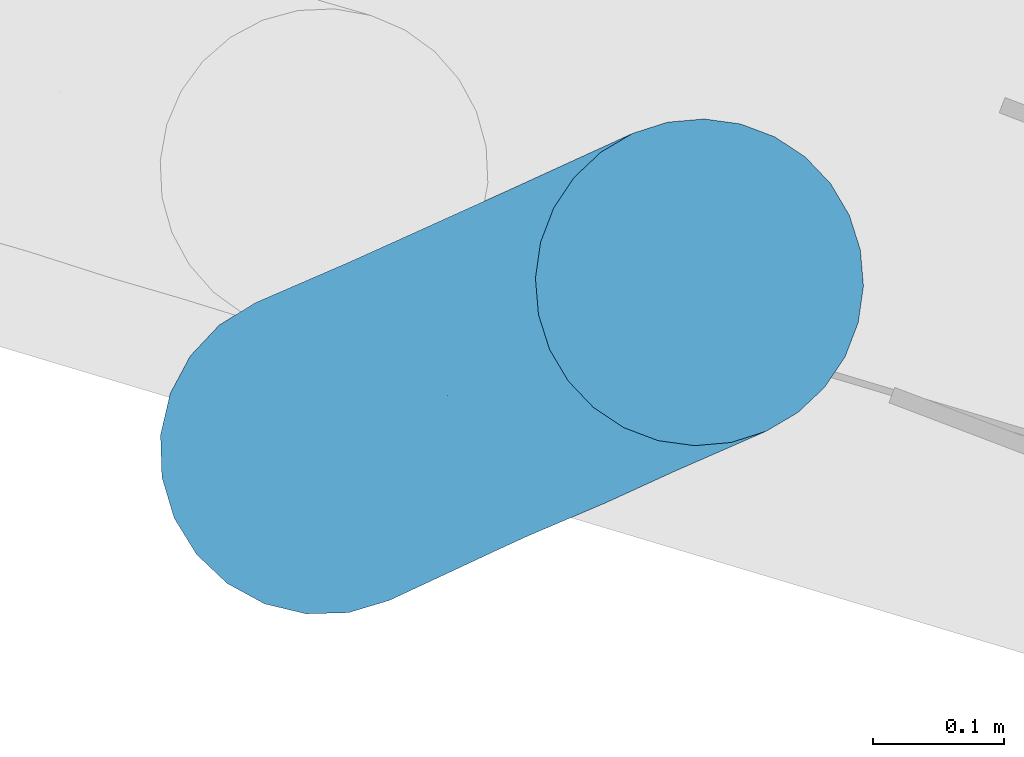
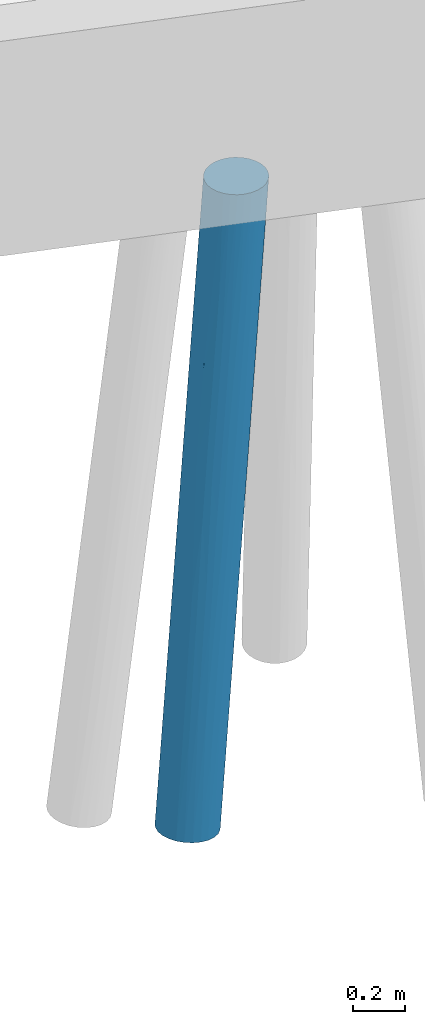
# One storey, part 4 of 46: 1 pile.
"""IFC2X3 building model written with IfcOpenShell, lengths in millimetres."""

from ifc_helpers import new_model, entity, si_unit, converted_unit, derived_unit, direction, frame, origin, place, context, subcontext, project, spatial, faceted_brep, source, transform, mapped, material, type_object, type_shapes, element, save


model = new_model("IFC2X3")

# Units and contexts
model_context = context("Model", 3, precision=0.01, world=origin(), true_north=direction((6.123233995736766e-17, 1.0)))
body_context = subcontext(model_context, "Body", "Model", "MODEL_VIEW")
ifc_project = project(units=[si_unit("LENGTHUNIT", "METRE", prefix="MILLI"), converted_unit("PLANEANGLEUNIT", "DEGREE", entity("IfcPlaneAngleMeasure", 0.017453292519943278), si_unit("PLANEANGLEUNIT", "RADIAN"), dimensions=[0, 0, 0, 0, 0, 0, 0]), si_unit("AREAUNIT", "SQUARE_METRE"), derived_unit("THERMALTRANSMITTANCEUNIT", [(si_unit("MASSUNIT", "GRAM", prefix="KILO"), 1), (si_unit("THERMODYNAMICTEMPERATUREUNIT", "KELVIN"), -1), (si_unit("TIMEUNIT", "SECOND"), -3)])], contexts=[model_context])

# Site, building, storey
site_placement = place(None, frame((-72937.88054949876, 11621.45624098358, 0.0), z_axis=(0.0, 0.0, 1.0), x_axis=(0.9346418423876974, -0.35559053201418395, 0.0)))
site = spatial("IfcSite", under=ifc_project, at=site_placement, Name="Default", CompositionType="ELEMENT")
building_placement = place(site_placement, origin())
building = spatial("IfcBuilding", under=site, at=building_placement, CompositionType="ELEMENT")
storey_placement = place(building_placement, origin())
storey = spatial("IfcBuildingStorey", under=building, at=storey_placement, Name="00 begane grond", CompositionType="ELEMENT", Elevation=0.0)

# Pile
ifc_material = material(Name="beton_gewapend_prefab-element_c45/55")
type_product = type_object("IfcTypeProduct", Name="Type 01", material=ifc_material)
shared_shape = source(origin(), body_context, "Body", "Brep", [
    faceted_brep([(124.838162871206, -27.815116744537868, -1150.0), (115.53639022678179, -54.2354673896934, -1150.0), (72.36643070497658, -41.239861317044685, -1587.2480771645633), (-111.09194578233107, -54.23546738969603, -1150.0), (-165.1894529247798, -41.33003827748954, -1588.444859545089), (-182.07875772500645, -65.1457063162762, -1842.6627389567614), (-30.14575159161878, -64.60051474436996, -2410.3553271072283), (32.98344934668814, -64.94314047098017, -1840.3127773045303), (15.031797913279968, -88.27496307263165, -1836.1297740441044), (41.77006032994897, 0.0, -1925.9925992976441), (100.55257203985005, -77.9362252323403, -1150.0), (80.6380595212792, -97.7289353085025, -1150.0), (-180.54618184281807, -99.16916754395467, -3483.986786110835), (-108.1734310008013, -106.74566752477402, -2732.5343267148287), (-175.6519081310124, -115.48494156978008, -3184.0354063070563), (-42.91884640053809, -117.90464735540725, -1932.203812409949), (56.79144948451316, -112.62110848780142, -1150.0), (30.20851053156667, -121.8659890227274, -1150.0), (-120.39371842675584, -27.81511674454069, -1150.0), (-242.98263969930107, -88.62069146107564, -2558.5627355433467), (-162.25875578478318, -88.50075404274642, -1830.9574517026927), (-245.70385641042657, -64.88368548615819, -2413.843724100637), (-194.4421984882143, -32.35238063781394, -4013.333582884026), (-133.56769714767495, -28.49629953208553, -3474.2266886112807), (-151.93048965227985, -53.33845094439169, -3561.073967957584), (12.222467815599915, -106.275938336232, -1655.8961403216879), (-23.42762089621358, -124.20079095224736, -1508.642990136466), (-80.64748703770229, -124.2366812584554, -1770.9263967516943), (-73.06982999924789, -124.27812918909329, -1949.101189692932), (-265.024992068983, -123.93060767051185, -3407.479310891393), (-314.4444444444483, -125.0, -4000.0), (-240.21076201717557, -123.93060767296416, -3479.642475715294), (-190.20897761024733, 0.0, -4013.803940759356), (-117.33081280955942, 0.0, -3357.900457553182), (-25.764066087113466, -121.86598902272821, -1150.0), (2.2222222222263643, -125.0, -1150.0), (-317.9689709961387, -23.60182842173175, -2920.157783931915), (-375.26894382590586, -28.366113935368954, -3445.0277270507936), (-326.96702366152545, -47.83542903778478, -3066.9425894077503), (-73.70805836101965, -23.187811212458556, -2945.6497765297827), (16.085837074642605, -41.18767244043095, -2093.938466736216), (-39.92708990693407, -41.47720200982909, -2597.136214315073), (-183.66520352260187, -123.01104339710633, -3024.1067526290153), (-196.28435151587, -123.47165352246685, -2760.09510592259), (-252.3267110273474, -108.25317547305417, -4006.901970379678), (-226.59670338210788, -88.38834764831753, -4009.7608601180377), (-206.8533741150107, -62.49999999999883, -4011.9545633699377), (-148.27550792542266, -76.09517863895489, -3402.494577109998), (-119.74622127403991, -106.37235269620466, -1653.229951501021), (-99.40312932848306, -118.21391771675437, -1696.7443345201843), (-52.347005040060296, -112.62110848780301, -1150.0), (-238.2779479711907, -106.2597512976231, -2718.3665211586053), (-185.92128902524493, -102.46025049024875, -2194.904710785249), (-42.820885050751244, -102.58547775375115, -2202.1491422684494), (-156.2252162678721, -118.09364807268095, -2204.9892079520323), (-264.72929865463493, -115.48494155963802, -3119.3954545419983), (-319.0271104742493, -115.48494156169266, -3608.075760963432), (-76.19361507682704, -97.72893530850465, -1150.0), (-96.10812759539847, -77.93622523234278, -1150.0), (-44.45199380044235, 0.0, -2701.9910864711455), (-1.3402226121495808, 0.0, -2313.985145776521), (-292.9202820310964, -72.79893776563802, -2886.1326580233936), (-292.6922084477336, -91.63383624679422, -3034.349570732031), (-282.2899395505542, -120.74072828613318, -4003.5727227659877), (-227.3188222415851, -115.48494156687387, -3649.037633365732), (-209.76851175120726, 0.0, -1925.9934634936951), (-221.60043037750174, -41.38232604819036, -2096.3096577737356), (-376.56217786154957, -108.25317547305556, -3993.0980296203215), (-346.59894933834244, -120.74072828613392, -3996.4272772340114), (-66.21715172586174, -88.15377228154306, -2568.4634430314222), (-129.97696806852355, -118.32629651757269, -2704.7019880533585), (-123.5470158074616, 0.0, -1150.0), (-377.52744650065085, -52.97984274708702, -3542.5215927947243), (-345.70385271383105, -76.09517862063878, -3383.3196685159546), (-275.8885685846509, -42.22399193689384, -2587.6075033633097), (-422.0355147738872, -62.50000000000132, -3988.0454366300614), (-402.29218550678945, -88.38834764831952, -3990.239139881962), (-331.8470727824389, -99.16916753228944, -3467.5525053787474), (-132.4434459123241, -124.68323586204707, -2281.458802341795), (-96.52658231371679, -47.8354290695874, -3084.4998642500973), (-89.11715414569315, -71.65077909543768, -2899.5648185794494), (127.99146025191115, 0.0, -1150.0), (-252.87925972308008, 0.0, -2313.9901952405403), (-122.93481462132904, -90.89446365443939, -3053.447507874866), (-434.4466904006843, -32.352380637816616, -3986.6664171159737), (-438.679911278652, 0.0, -3986.1960592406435), (-141.73877836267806, -124.16072599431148, -2576.5969257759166), (-210.06991733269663, -117.23436667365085, -2667.8819222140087), (-295.9900076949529, 0.0, -2701.9869269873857), (-367.3349594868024, 0.0, -3344.0914931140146), (124.83816287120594, 27.815116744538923, -1150.0), (115.53639022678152, 54.23546738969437, -1150.0), (100.55257203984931, 77.93622523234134, -1150.0), (80.63805952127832, 97.7289353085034, -1150.0), (56.79144948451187, 112.62110848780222, -1150.0), (30.20851053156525, 121.86598902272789, -1150.0), (2.22222222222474, 125.0, -1150.0), (-25.76406608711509, 121.86598902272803, -1150.0), (-52.34700504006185, 112.62110848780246, -1150.0), (-76.1936150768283, 97.72893530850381, -1150.0), (-96.10812759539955, 77.93622523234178, -1150.0), (-111.09194578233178, 54.23546738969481, -1150.0), (-120.39371842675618, 27.815116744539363, -1150.0), (-96.52658225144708, 47.83542901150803, -3084.4998639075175), (-133.5676976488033, 28.496299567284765, -3474.2266930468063), (-151.9304895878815, 53.338451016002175, -3561.073967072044), (-176.7825211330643, 87.58614607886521, -1953.453255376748), (-126.78568187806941, 88.44799753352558, -1511.2211246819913), (-140.32328536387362, 105.94191584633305, -1832.1538289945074), (-185.53475823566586, 41.3488976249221, -1771.6124540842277), (-98.5233768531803, 124.24251446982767, -1932.2861052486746), (-159.3540506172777, 67.83984168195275, -1653.46778938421), (-221.49211536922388, 66.66107193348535, -2205.8974607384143), (-402.2921855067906, 88.38834764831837, -3990.239139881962), (-352.8086337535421, 76.09517892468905, -3447.262699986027), (-312.10423006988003, 99.16916769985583, -3289.866922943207), (-282.2899395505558, 120.74072828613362, -4003.5727227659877), (-314.44444444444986, 125.0, -4000.0), (-235.4135805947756, 123.93060766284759, -3436.467843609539), (-362.94366171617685, 26.27355326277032, -3329.855963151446), (-328.2998352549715, 47.83542988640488, -3078.9378969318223), (-384.2243809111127, 47.83542945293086, -3582.258806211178), (-376.562177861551, 108.25317547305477, -3993.0980296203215), (-180.54618171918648, 99.16916751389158, -3483.9867853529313), (-148.27550783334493, 76.0951785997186, -3402.49457655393), (-226.59670338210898, 88.38834764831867, -4009.7608601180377), (-163.5203657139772, 118.46525212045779, -2280.489865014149), (-104.92272192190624, 118.27912572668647, -1748.143371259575), (-89.11715398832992, 71.6507788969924, -2899.5648184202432), (-39.927089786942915, 41.4772017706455, -2597.1362139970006), (-274.28881423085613, 82.15433137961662, -2785.484682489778), (-221.11735801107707, 106.04994682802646, -2560.8655013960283), (-422.03551477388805, 62.49999999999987, -3988.0454366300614), (-434.4466904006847, 32.35238063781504, -3986.6664171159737), (-180.90977316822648, 122.95522291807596, -3002.0876370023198), (-141.73877802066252, 124.16072595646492, -2576.596925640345), (-129.97696798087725, 118.32629644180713, -2704.701989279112), (-180.2811496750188, 124.04234815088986, -2652.685215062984), (-242.59310629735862, 123.930607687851, -3205.592340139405), (-232.5682987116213, 117.68101498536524, -2881.4778788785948), (-301.7888662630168, 115.48494161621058, -3452.931564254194), (-346.598949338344, 120.7407282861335, -3996.4272772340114), (-206.85337411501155, 62.50000000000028, -4011.9545633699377), (-42.918846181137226, 117.90464729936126, -1932.2038118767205), (-83.49872980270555, 124.18127902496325, -2050.8284888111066), (-29.55955353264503, 124.19873841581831, -1563.9938530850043), (15.03179802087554, 88.27496298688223, -1836.1297738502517), (32.983449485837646, 64.94314037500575, -1840.3127765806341), (-30.14575143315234, 64.60051457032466, -2410.3553266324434), (-42.820884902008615, 102.58547764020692, -2202.149142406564), (12.222467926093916, 106.27593827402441, -1655.89614023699), (-73.70805863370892, 23.18781108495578, -2945.6497792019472), (16.08583725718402, 41.18767230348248, -2093.9384655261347), (72.36643080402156, 41.2398612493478, -1587.2480764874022), (-221.94118502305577, 91.78881553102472, -2399.105716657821), (-108.17343087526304, 106.7456674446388, -2732.5343267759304), (-66.2171515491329, 88.15377212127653, -2568.463442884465), (-122.93481449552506, 90.89446347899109, -3053.447508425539), (-262.27997921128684, 34.77836369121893, -2443.29023072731), (-227.3188223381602, 115.48494155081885, -3649.037634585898), (-252.32671102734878, 108.25317547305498, -4006.901970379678), (-277.036285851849, 61.03344887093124, -2675.5040755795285), (-194.44219848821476, 32.35238063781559, -4013.333582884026), (-312.1095376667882, 26.52940126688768, -2872.8494770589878), (-175.65190824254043, 115.48494153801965, -3184.035408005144)], [[[0, 1, 2]], [[3, 4, 5]], [[6, 7, 8]], [[9, 0, 2]], [[8, 10, 11]], [[12, 13, 14]], [[15, 16, 17]], [[4, 3, 18]], [[19, 20, 21]], [[22, 23, 24]], [[11, 16, 25]], [[26, 27, 28]], [[29, 30, 31]], [[32, 33, 23]], [[10, 8, 7]], [[34, 27, 35]], [[36, 37, 38]], [[33, 39, 23]], [[40, 6, 41]], [[42, 43, 29]], [[44, 45, 12]], [[20, 5, 21]], [[26, 17, 35]], [[45, 46, 47]], [[48, 49, 50]], [[19, 51, 52]], [[53, 25, 15]], [[46, 24, 47]], [[48, 54, 49]], [[55, 56, 29]], [[57, 58, 20]], [[40, 59, 60, 9]], [[61, 62, 19]], [[2, 7, 40]], [[63, 44, 64]], [[65, 66, 4]], [[3, 5, 58]], [[20, 52, 48]], [[67, 68, 56]], [[29, 43, 55]], [[69, 53, 13]], [[13, 70, 14]], [[18, 71, 65]], [[72, 73, 38]], [[68, 30, 29]], [[74, 36, 38]], [[62, 51, 19]], [[38, 61, 74]], [[37, 72, 38]], [[75, 76, 73]], [[76, 77, 73]], [[57, 20, 48]], [[12, 45, 47]], [[6, 40, 7]], [[78, 54, 43]], [[27, 78, 28]], [[79, 41, 80]], [[81, 0, 9]], [[66, 65, 82]], [[41, 39, 59]], [[13, 12, 83]], [[76, 67, 77]], [[84, 37, 85]], [[21, 61, 19]], [[30, 63, 31]], [[31, 42, 29]], [[47, 80, 83]], [[64, 12, 14]], [[56, 77, 67]], [[51, 62, 77]], [[64, 31, 63]], [[14, 70, 42]], [[1, 10, 7]], [[9, 2, 40]], [[7, 2, 1]], [[6, 8, 69]], [[80, 6, 69]], [[6, 80, 41]], [[65, 4, 18]], [[5, 4, 66]], [[5, 66, 21]], [[58, 5, 20]], [[74, 21, 66]], [[61, 38, 73]], [[78, 43, 86]], [[55, 87, 51]], [[83, 80, 69]], [[79, 80, 47]], [[83, 69, 13]], [[47, 83, 12]], [[53, 69, 8]], [[70, 15, 86]], [[25, 53, 8]], [[70, 53, 15]], [[11, 25, 8]], [[15, 25, 16]], [[39, 41, 79]], [[59, 40, 41]], [[23, 39, 79]], [[33, 59, 39]], [[24, 23, 79]], [[32, 23, 22]], [[47, 24, 79]], [[22, 24, 46]], [[61, 21, 74]], [[62, 73, 77]], [[73, 62, 61]], [[51, 77, 55]], [[87, 55, 43]], [[19, 52, 20]], [[51, 54, 52]], [[27, 49, 54]], [[54, 48, 52]], [[57, 48, 50]], [[70, 13, 53]], [[42, 70, 86]], [[43, 42, 86]], [[14, 42, 31]], [[29, 56, 68]], [[74, 66, 82]], [[88, 89, 36, 82]], [[37, 36, 89]], [[85, 37, 89]], [[72, 84, 75]], [[84, 72, 37]], [[73, 72, 75]], [[43, 54, 87]], [[54, 51, 87]], [[36, 74, 82]], [[77, 56, 55]], [[28, 86, 15]], [[54, 78, 27]], [[86, 28, 78]], [[26, 15, 17]], [[27, 26, 35]], [[15, 26, 28]], [[12, 64, 44]], [[31, 64, 14]], [[27, 34, 49]], [[50, 49, 34]], [[34, 35, 17, 16, 11, 10, 1, 0, 81, 90, 91, 92, 93, 94, 95, 96, 97, 98, 99, 100, 101, 102, 71, 18, 3, 58, 57, 50]], [[103, 104, 105]], [[90, 81, 9]], [[106, 107, 108]], [[109, 102, 101]], [[110, 97, 96]], [[111, 112, 109]], [[113, 114, 115]], [[116, 117, 118]], [[98, 108, 99]], [[119, 120, 121]], [[113, 115, 122]], [[106, 112, 111]], [[123, 124, 125]], [[110, 126, 127]], [[119, 85, 89]], [[65, 71, 102]], [[103, 128, 129]], [[115, 130, 131]], [[108, 127, 126]], [[132, 133, 121]], [[134, 135, 136]], [[137, 138, 139]], [[140, 141, 122]], [[142, 125, 124]], [[143, 144, 145]], [[146, 147, 148]], [[146, 149, 150]], [[130, 115, 114]], [[151, 104, 103]], [[143, 136, 144]], [[9, 152, 153]], [[140, 122, 115]], [[143, 95, 94]], [[98, 97, 127]], [[92, 146, 93]], [[138, 140, 139]], [[131, 130, 154]], [[129, 151, 103]], [[117, 141, 138]], [[118, 117, 138]], [[155, 156, 157]], [[96, 95, 145]], [[109, 158, 65]], [[116, 159, 160]], [[143, 149, 136]], [[153, 91, 90]], [[105, 124, 103]], [[112, 158, 109]], [[146, 148, 156]], [[100, 111, 101]], [[128, 157, 156]], [[147, 92, 91]], [[91, 153, 147]], [[150, 93, 146]], [[156, 155, 149]], [[161, 158, 112]], [[65, 102, 109]], [[113, 132, 114]], [[139, 140, 115]], [[125, 160, 123]], [[152, 9, 60]], [[162, 104, 32]], [[148, 128, 156]], [[138, 137, 134]], [[163, 158, 120]], [[159, 118, 164]], [[121, 114, 132]], [[130, 161, 112]], [[161, 114, 120]], [[112, 106, 154]], [[139, 115, 131]], [[138, 141, 140]], [[163, 120, 119]], [[158, 88, 82, 65]], [[159, 123, 160]], [[155, 157, 123]], [[9, 153, 90]], [[147, 153, 152]], [[147, 152, 148]], [[92, 147, 146]], [[129, 148, 152]], [[128, 103, 124]], [[131, 126, 139]], [[135, 134, 137]], [[108, 126, 131]], [[110, 144, 137]], [[139, 126, 137]], [[110, 137, 126]], [[128, 148, 129]], [[157, 124, 123]], [[124, 157, 128]], [[155, 123, 164]], [[136, 155, 164]], [[156, 149, 146]], [[136, 149, 155]], [[150, 143, 94]], [[143, 150, 149]], [[93, 150, 94]], [[101, 111, 109]], [[129, 152, 60]], [[59, 33, 151]], [[104, 151, 33]], [[32, 104, 33]], [[105, 162, 142]], [[162, 105, 104]], [[124, 105, 142]], [[98, 127, 108]], [[97, 110, 127]], [[134, 164, 118]], [[136, 135, 144]], [[164, 134, 136]], [[138, 134, 118]], [[133, 85, 119]], [[114, 121, 120]], [[133, 119, 121]], [[163, 89, 88]], [[89, 163, 119]], [[88, 158, 163]], [[59, 151, 129]], [[60, 59, 129]], [[100, 99, 107]], [[111, 100, 107]], [[154, 108, 131]], [[108, 107, 99]], [[111, 107, 106]], [[137, 144, 135]], [[145, 110, 96]], [[143, 145, 95]], [[110, 145, 144]], [[118, 159, 116]], [[123, 159, 164]], [[114, 161, 130]], [[158, 161, 120]], [[112, 154, 130]], [[108, 154, 106]], [[141, 117, 116, 160, 125, 142, 162, 32, 22, 46, 45, 44, 63, 30, 68, 67, 76, 75, 84, 85, 133, 132, 113, 122]]]),
])
type_shapes(type_product, [shared_shape])
pile_placement = place(storey_placement, frame((62000.0, 14662.970466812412, 0.0), z_axis=(0.0, 0.0, 1.0), x_axis=(0.7071067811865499, 0.7071067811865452, 0.0)))
element("IfcPile", 1, at=pile_placement, inside=storey, type_object=type_product, material=ifc_material, Name="17.21_Prefab funderingspaal rond", ObjectType="prefab paal rond", PredefinedType="NOTDEFINED", context=body_context, shape_type="MappedRepresentation", body=[
    mapped(shared_shape, transform((0.0, 0.0, 0.0), scale=1.0)),
])

save(model, "model.ifc")
